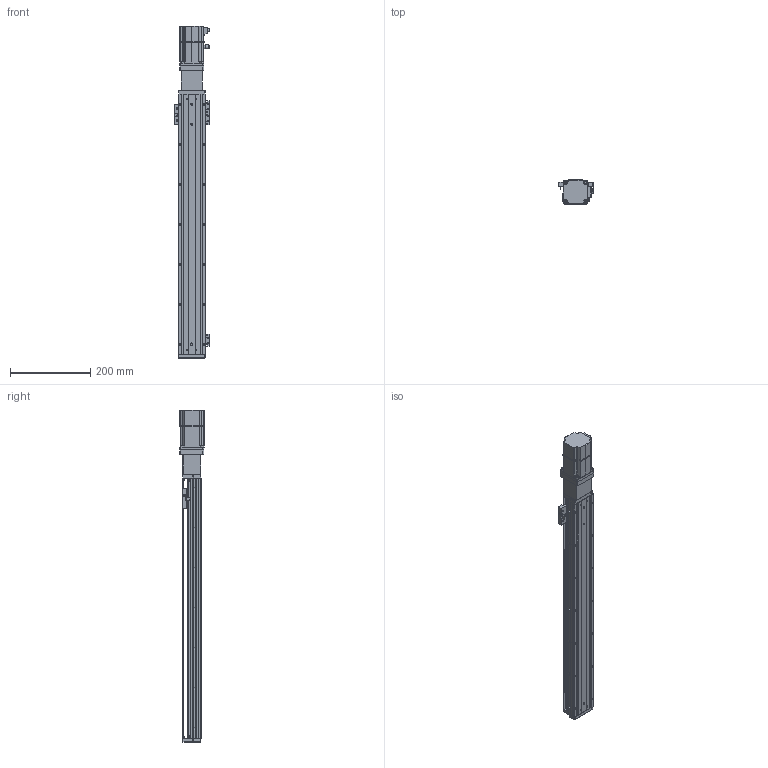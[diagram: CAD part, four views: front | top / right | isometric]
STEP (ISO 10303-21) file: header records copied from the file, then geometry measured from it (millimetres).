
FILE_DESCRIPTION (( 'STEP AP203' ), '1' );
FILE_NAME ('KTHA60-550-BC-M20-C4L.step', '2022-12-16T01:29:34', ( '微软用户' ), ( '微软中国' ), 'SwSTEP 2.0', 'SolidWorks 2020', '' );
FILE_SCHEMA (( 'CONFIG_CONTROL_DESIGN' ));
Length unit declared in the file: millimetre
Products named in the file (18): KTHA60-002; KTHA60-004; GBT 70.1-M4×16; CTHA60-006-3_M20B; KTHA60-005; GBT77-2000M3-3; _X2_4E0983F1_X0_200W_1; GB¨uT 70.2-M3¡Á5_M3¡Á6; GBT 70.1-M3℅6; KTHA60-550-BC-M20-C4L; GBT 70.3-M3℅6; CTHA60-016; EE_SX911P_R; CTHA60-013; CTHA60-017; CTHA60-027; KTHA60-001_650; CTHA60-021
Assembly tree (50 placements, depth 2):
  KTHA60-550-BC-M20-C4L
    KTHA60-001_650
    KTHA60-004
    KTHA60-005
    GB¨uT 70.2-M3¡Á5_M3¡Á6  x6
    GBT 70.3-M3℅6  x6
    EE_SX911P_R  x3
    CTHA60-017  x3
    CTHA60-021  x2
    GBT 70.1-M4×16  x8
    GBT77-2000M3-3  x6
    GBT 70.1-M3℅6  x6
    CTHA60-016  x2
    CTHA60-013
    CTHA60-027
    KTHA60-002
    CTHA60-006-3_M20B
    _X2_4E0983F1_X0_200W_1
Bounding box: 87.72 x 62.42 x 829.7 mm (x, y, z)
Volume: 1567747.6 mm3; surface area: 379099.4 mm2
Topology: 53 solids, 53 shells, 2315 faces, 5483 edges, 3356 vertices
Faces by surface type: plane 1256, cylinder 594, cone 300, torus 80, bspline 69, sphere 16
Entity records: 40831 total; most frequent: CARTESIAN_POINT 7904, DIRECTION 6378, ORIENTED_EDGE 6170, EDGE_CURVE 3085, AXIS2_PLACEMENT_3D 2183, LINE 2012, VECTOR 2012, VERTEX_POINT 1923
